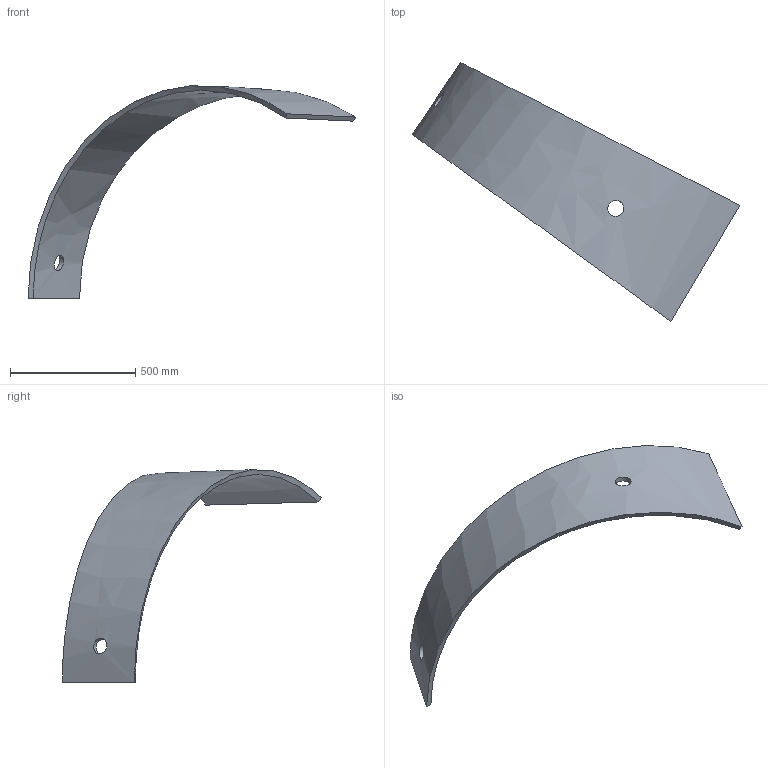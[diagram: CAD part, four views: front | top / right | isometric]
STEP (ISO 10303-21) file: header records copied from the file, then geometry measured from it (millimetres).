
FILE_DESCRIPTION (( 'STEP AP214' ), '1' );
FILE_NAME ('P7.2.STEP', '2025-01-09T19:43:28', ( '' ), ( '' ), 'SwSTEP 2.0', 'SolidWorks 2024', '' );
FILE_SCHEMA (( 'AUTOMOTIVE_DESIGN' ));
Length unit declared in the file: inch
Products named in the file (1): P7.2
Bounding box: 1308.03 x 1034.76 x 847.88 mm (x, y, z)
Volume: 13613588.6 mm3; surface area: 1524494 mm2
Topology: 1 solids, 1 shells, 8 faces, 18 edges, 12 vertices
Faces by surface type: bspline 6, cylinder 2
Full cylindrical faces by diameter (mm): 63.5 x2
Entity records: 2158 total; most frequent: CARTESIAN_POINT 1998, ORIENTED_EDGE 32, EDGE_CURVE 16, B_SPLINE_CURVE_WITH_KNOTS 16, EDGE_LOOP 14, VERTEX_POINT 12, FACE_OUTER_BOUND 10, ADVANCED_FACE 8
